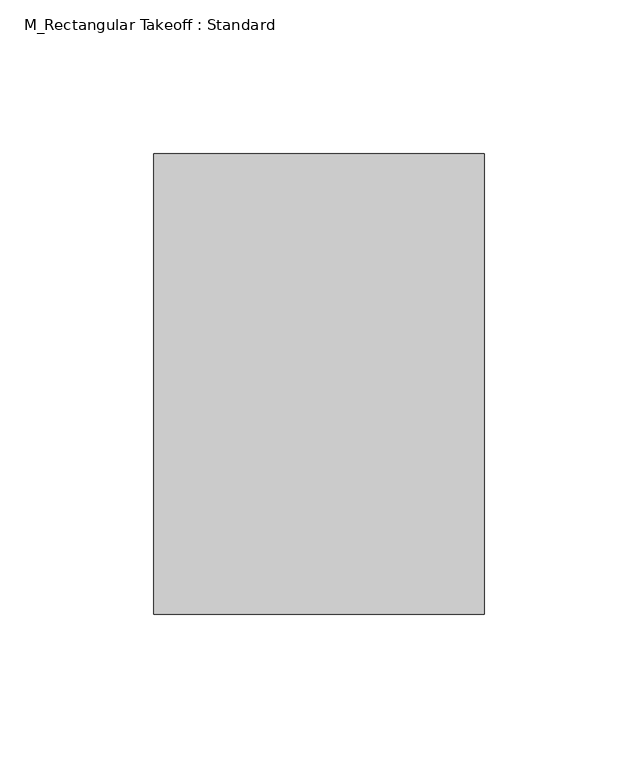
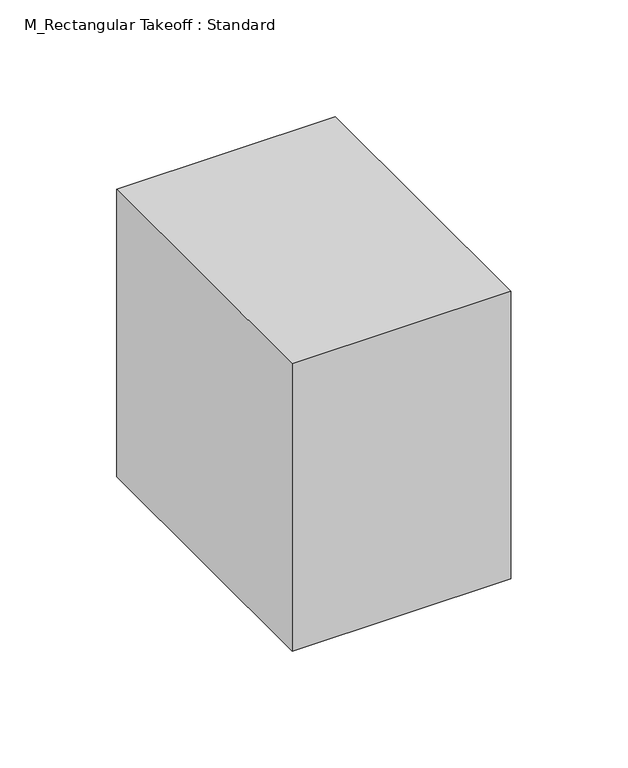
"""IFC4 building model written with IfcOpenShell, lengths in millimetres: duct fitting geometry, M_Rectangular Takeoff : Standard."""

from ifc_helpers import new_model, si_unit, frame, origin, place, context, project, spatial, polyline, outline, extrude, source, transform, mapped, element, save


def m_rectangular_takeoff_standard_c5702b73(model_context):
    return source(origin(), model_context, "Body", "SweptSolid", [
        extrude(outline(polyline([(-6.096, 75.0), (101.6, 75.0), (101.6, -75.0), (-6.096, -75.0), (-6.096, 75.0)])), frame((0.0, 0.0, -75.0), z_axis=(0.0, 0.0, 1.0), x_axis=(1.0, 0.0, 0.0)), (0.0, 0.0, 1.0), 150.0),
    ])


if __name__ == "__main__":
    model = new_model("IFC4")
    model_context = context("Model", 3, world=origin())
    ifc_project = project(units=[si_unit("LENGTHUNIT", "METRE", prefix="MILLI")], contexts=[model_context])
    site = spatial("IfcSite", under=ifc_project)
    building = spatial("IfcBuilding", under=site)
    placement = place(None, origin())
    m_rectangular_takeoff_standard_shape = m_rectangular_takeoff_standard_c5702b73(model_context)
    element("IfcDuctFitting", 1, ObjectType="M_Rectangular Takeoff : Standard", at=placement, inside=building, context=model_context, shape_type="MappedRepresentation", body=[
        mapped(m_rectangular_takeoff_standard_shape, transform((0.0, 0.0, 0.0), x_axis=(1.0, 0.0, 0.0), y_axis=(0.0, 1.0, 0.0), z_axis=(0.0, 0.0, 1.0))),
    ])
    save(model, "model.ifc")
